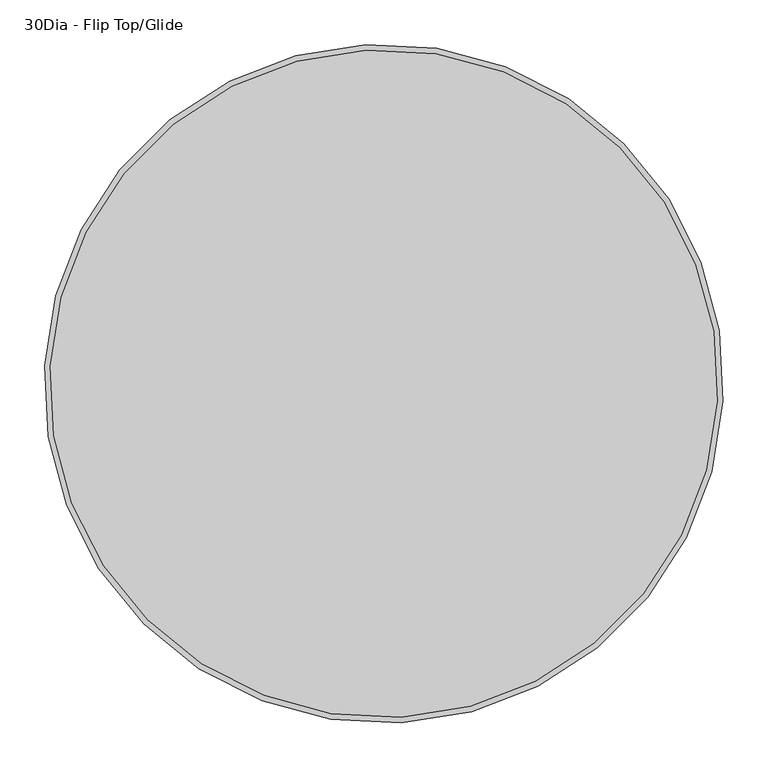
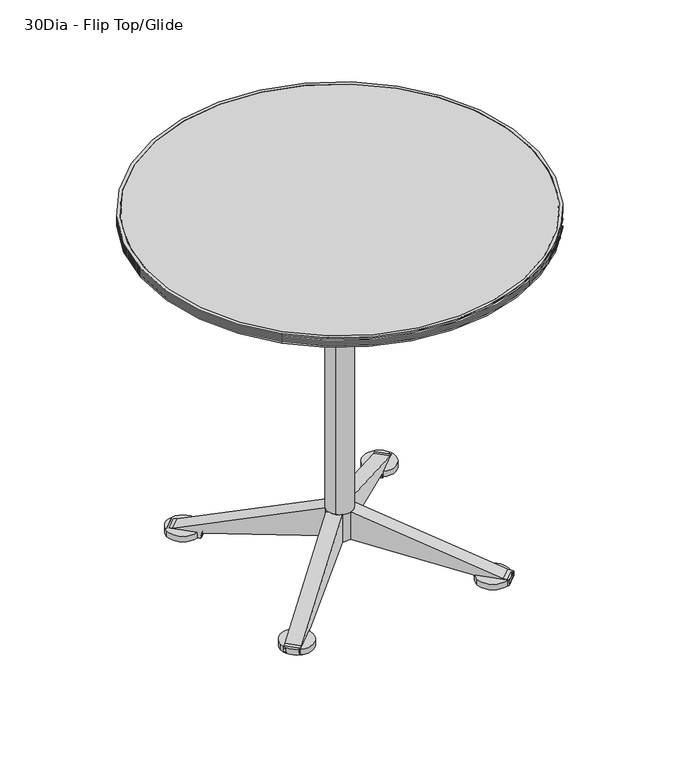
"""IFC4 building model written with IfcOpenShell, lengths in millimetres: furniture geometry, Coalesse_AM_Table_Conference_Ballet_Table_Round : 30Dia - Flip Top/Glide."""

from ifc_helpers import new_model, si_unit, point, frame, frame_2d, origin, origin_with_axes, origin_2d, place, context, project, spatial, polyline, circle_curve, trimmed, segment, composite_curve, outline, extrude, source, transform, mapped, element, save
from ifc_brep_helpers import plane_surface, cylinder_surface, revolved_surface, advanced_brep


def furniture_30dia_flip_top_glide_9120c742(model_context):
    return source(origin(), model_context, "Body", "SolidModel", [
        extrude(outline(composite_curve([segment(trimmed(circle_curve(frame_2d((-194.715793, 197.3207687)), 31.75), [point((-226.465793, 197.3207687))], [point((-162.965793, 197.3207687))], False, "CARTESIAN"), True, "CONTINUOUS"), segment(trimmed(circle_curve(frame_2d((-194.715793, 197.3207687)), 31.75), [point((-162.965793, 197.3207687))], [point((-226.465793, 197.3207687))], False, "CARTESIAN"), True, "CONTINUOUS")], self_intersect=False)), frame((0.0, 0.0, 4.2904479), z_axis=(0.0, 0.0, 1.0), x_axis=(1.0, 0.0, 0.0)), (0.0, 0.0, 1.0), 11.3833531),
        extrude(outline(composite_curve([segment(trimmed(circle_curve(frame_2d((191.7194605, 196.5270187)), 31.75), [point((159.9694605, 196.5270187))], [point((223.4694605, 196.5270187))], False, "CARTESIAN"), True, "CONTINUOUS"), segment(trimmed(circle_curve(frame_2d((191.7194605, 196.5270187)), 31.75), [point((223.4694605, 196.5270187))], [point((159.9694605, 196.5270187))], False, "CARTESIAN"), True, "CONTINUOUS")], self_intersect=False)), frame((0.0, 0.0, 4.2904479), z_axis=(0.0, 0.0, 1.0), x_axis=(1.0, 0.0, 0.0)), (0.0, 0.0, 1.0), 11.3833531),
        extrude(outline(composite_curve([segment(trimmed(circle_curve(frame_2d((-194.715793, -191.2787692)), 31.75), [point((-226.465793, -191.2787692))], [point((-162.965793, -191.2787692))], False, "CARTESIAN"), True, "CONTINUOUS"), segment(trimmed(circle_curve(frame_2d((-194.715793, -191.2787692)), 31.75), [point((-162.965793, -191.2787692))], [point((-226.465793, -191.2787692))], False, "CARTESIAN"), True, "CONTINUOUS")], self_intersect=False)), frame((0.0, 0.0, 4.2904479), z_axis=(0.0, 0.0, 1.0), x_axis=(1.0, 0.0, 0.0)), (0.0, 0.0, 1.0), 11.3833531),
        extrude(outline(composite_curve([segment(trimmed(circle_curve(frame_2d((191.7194605, -190.4850192)), 31.75), [point((159.9694605, -190.4850192))], [point((223.4694605, -190.4850192))], False, "CARTESIAN"), True, "CONTINUOUS"), segment(trimmed(circle_curve(frame_2d((191.7194605, -190.4850192)), 31.75), [point((223.4694605, -190.4850192))], [point((159.9694605, -190.4850192))], False, "CARTESIAN"), True, "CONTINUOUS")], self_intersect=False)), frame((0.0, 0.0, 4.2904479), z_axis=(0.0, 0.0, 1.0), x_axis=(1.0, 0.0, 0.0)), (0.0, 0.0, 1.0), 11.3833531),
        extrude(outline(composite_curve([segment(polyline([(-57.749273, 0.0), (0.0, 0.0), (-90.9931074, -269.8641919), (-92.3030079, -279.1846177)]), True, "CONTINUOUS"), segment(trimmed(circle_curve(frame_2d((-93.9206951, -278.9572666)), 1.6335852), [point((-92.3030079, -279.1846177))], [point((-93.8206014, -280.5877823))], False, "CARTESIAN"), True, "CONTINUOUS"), segment(trimmed(circle_curve(frame_2d((-95.8523928, -247.4901147)), 33.1599725), [point((-93.8206014, -280.5877823))], [point((-101.682402, -280.1335639))], False, "CARTESIAN"), True, "CONTINUOUS"), segment(trimmed(circle_curve(frame_2d((-101.2796868, -277.8786768)), 2.2905666), [point((-101.682402, -280.1335639))], [point((-103.5674671, -277.7657306))], False, "CARTESIAN"), True, "CONTINUOUS"), segment(polyline([(-103.5674671, -277.7657306), (-103.5674671, -222.4322812)]), True, "CONTINUOUS"), segment(trimmed(circle_curve(frame_2d((-100.6154331, -221.9840334)), 2.9858719), [point((-103.5674671, -222.4322812))], [point((-100.2998684, -219.0148838))], False, "CARTESIAN"), True, "CONTINUOUS"), segment(trimmed(circle_curve(frame_2d((-98.3053249, -200.2482144)), 18.872363), [point((-100.2998684, -219.0148838))], [point((-94.5016021, -218.7332835))], True, "CARTESIAN"), True, "CONTINUOUS"), segment(trimmed(circle_curve(frame_2d((-95.1495986, -215.5841949)), 3.2150673), [point((-94.5016021, -218.7332835))], [point((-91.9741141, -216.0871422))], True, "CARTESIAN"), True, "CONTINUOUS"), segment(polyline([(-91.9741141, -216.0871422), (-57.749273, 0.0)]), True, "CONTINUOUS")], self_intersect=False)), frame((-23.5273141, 7.7834997, 107.857915), z_axis=(0.7071067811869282, 0.707106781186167, 0.0), x_axis=(0.0, 0.0, 1.0)), (0.0, 0.0, 1.0), 29.2174476),
        extrude(outline(composite_curve([segment(polyline([(-57.749273, 44.2801775), (-91.9741141, 260.3673198)]), True, "CONTINUOUS"), segment(trimmed(circle_curve(frame_2d((-95.1495986, 259.8643724)), 3.2150673), [point((-91.9741141, 260.3673198))], [point((-94.5016021, 263.013461))], True, "CARTESIAN"), True, "CONTINUOUS"), segment(trimmed(circle_curve(frame_2d((-98.3053249, 244.5283919)), 18.872363), [point((-94.5016021, 263.013461))], [point((-100.2998684, 263.2950613))], True, "CARTESIAN"), True, "CONTINUOUS"), segment(trimmed(circle_curve(frame_2d((-100.6154331, 266.2642109)), 2.9858719), [point((-100.2998684, 263.2950613))], [point((-103.5674671, 266.7124587))], False, "CARTESIAN"), True, "CONTINUOUS"), segment(polyline([(-103.5674671, 266.7124587), (-103.5674671, 322.0459081)]), True, "CONTINUOUS"), segment(trimmed(circle_curve(frame_2d((-101.2796868, 322.1588543)), 2.2905666), [point((-103.5674671, 322.0459081))], [point((-101.682402, 324.4137415))], False, "CARTESIAN"), True, "CONTINUOUS"), segment(trimmed(circle_curve(frame_2d((-95.8523928, 291.7702923)), 33.1599725), [point((-101.682402, 324.4137415))], [point((-93.8206014, 324.8679598))], False, "CARTESIAN"), True, "CONTINUOUS"), segment(trimmed(circle_curve(frame_2d((-93.9206951, 323.2374442)), 1.6335852), [point((-93.8206014, 324.8679598))], [point((-92.3030079, 323.4647953))], False, "CARTESIAN"), True, "CONTINUOUS"), segment(polyline([(-92.3030079, 323.4647953), (-90.9931074, 314.1443694), (0.0, 44.2801775), (-57.749273, 44.2801775)]), True, "CONTINUOUS")], self_intersect=False)), frame((-23.5273141, 7.7834997, 107.857915), z_axis=(0.7071067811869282, 0.707106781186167, 0.0), x_axis=(0.0, 0.0, 1.0)), (0.0, 0.0, 1.0), 29.2174476),
        extrude(outline(composite_curve([segment(polyline([(-57.749273, 0.0), (0.0, 0.0), (-90.9931074, -269.8641919), (-92.3030079, -279.1846177)]), True, "CONTINUOUS"), segment(trimmed(circle_curve(frame_2d((-93.9206951, -278.9572666)), 1.6335852), [point((-92.3030079, -279.1846177))], [point((-93.8206014, -280.5877823))], False, "CARTESIAN"), True, "CONTINUOUS"), segment(trimmed(circle_curve(frame_2d((-95.8523928, -247.4901147)), 33.1599725), [point((-93.8206014, -280.5877823))], [point((-101.682402, -280.1335639))], False, "CARTESIAN"), True, "CONTINUOUS"), segment(trimmed(circle_curve(frame_2d((-101.2796868, -277.8786768)), 2.2905666), [point((-101.682402, -280.1335639))], [point((-103.5674671, -277.7657306))], False, "CARTESIAN"), True, "CONTINUOUS"), segment(polyline([(-103.5674671, -277.7657306), (-103.5674671, -222.4322812)]), True, "CONTINUOUS"), segment(trimmed(circle_curve(frame_2d((-100.6154331, -221.9840334)), 2.9858719), [point((-103.5674671, -222.4322812))], [point((-100.2998684, -219.0148838))], False, "CARTESIAN"), True, "CONTINUOUS"), segment(trimmed(circle_curve(frame_2d((-98.3053249, -200.2482144)), 18.872363), [point((-100.2998684, -219.0148838))], [point((-94.5016021, -218.7332835))], True, "CARTESIAN"), True, "CONTINUOUS"), segment(trimmed(circle_curve(frame_2d((-95.1495986, -215.5841949)), 3.2150673), [point((-94.5016021, -218.7332835))], [point((-91.9741141, -216.0871422))], True, "CARTESIAN"), True, "CONTINUOUS"), segment(polyline([(-91.9741141, -216.0871422), (-57.749273, 0.0)]), True, "CONTINUOUS")], self_intersect=False)), frame((-7.7834997, -23.5273141, 107.857915), z_axis=(-0.7071067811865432, 0.7071067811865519, 0.0), x_axis=(0.0, 0.0, 1.0)), (0.0, 0.0, 1.0), 29.2174476),
        extrude(outline(composite_curve([segment(polyline([(-57.749273, 44.2801775), (-91.9741141, 260.3673198)]), True, "CONTINUOUS"), segment(trimmed(circle_curve(frame_2d((-95.1495986, 259.8643724)), 3.2150673), [point((-91.9741141, 260.3673198))], [point((-94.5016021, 263.013461))], True, "CARTESIAN"), True, "CONTINUOUS"), segment(trimmed(circle_curve(frame_2d((-98.3053249, 244.5283919)), 18.872363), [point((-94.5016021, 263.013461))], [point((-100.2998684, 263.2950613))], True, "CARTESIAN"), True, "CONTINUOUS"), segment(trimmed(circle_curve(frame_2d((-100.6154331, 266.2642109)), 2.9858719), [point((-100.2998684, 263.2950613))], [point((-103.5674671, 266.7124587))], False, "CARTESIAN"), True, "CONTINUOUS"), segment(polyline([(-103.5674671, 266.7124587), (-103.5674671, 322.0459081)]), True, "CONTINUOUS"), segment(trimmed(circle_curve(frame_2d((-101.2796868, 322.1588543)), 2.2905666), [point((-103.5674671, 322.0459081))], [point((-101.682402, 324.4137415))], False, "CARTESIAN"), True, "CONTINUOUS"), segment(trimmed(circle_curve(frame_2d((-95.8523928, 291.7702923)), 33.1599725), [point((-101.682402, 324.4137415))], [point((-93.8206014, 324.8679598))], False, "CARTESIAN"), True, "CONTINUOUS"), segment(trimmed(circle_curve(frame_2d((-93.9206951, 323.2374442)), 1.6335852), [point((-93.8206014, 324.8679598))], [point((-92.3030079, 323.4647953))], False, "CARTESIAN"), True, "CONTINUOUS"), segment(polyline([(-92.3030079, 323.4647953), (-90.9931074, 314.1443694), (0.0, 44.2801775), (-57.749273, 44.2801775)]), True, "CONTINUOUS")], self_intersect=False)), frame((-7.7834997, -23.5273141, 107.857915), z_axis=(-0.7071067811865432, 0.7071067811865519, 0.0), x_axis=(0.0, 0.0, 1.0)), (0.0, 0.0, 1.0), 29.2174476),
        extrude(outline(composite_curve([segment(polyline([(-57.749273, 0.0), (0.0, 0.0), (-90.9931074, -269.8641919), (-92.3030079, -279.1846177)]), True, "CONTINUOUS"), segment(trimmed(circle_curve(frame_2d((-93.9206951, -278.9572666)), 1.6335852), [point((-92.3030079, -279.1846177))], [point((-93.8206014, -280.5877823))], False, "CARTESIAN"), True, "CONTINUOUS"), segment(trimmed(circle_curve(frame_2d((-95.8523928, -247.4901147)), 33.1599725), [point((-93.8206014, -280.5877823))], [point((-101.682402, -280.1335639))], False, "CARTESIAN"), True, "CONTINUOUS"), segment(trimmed(circle_curve(frame_2d((-101.2796868, -277.8786768)), 2.2905666), [point((-101.682402, -280.1335639))], [point((-103.5674671, -277.7657306))], False, "CARTESIAN"), True, "CONTINUOUS"), segment(polyline([(-103.5674671, -277.7657306), (-103.5674671, -222.4322812)]), True, "CONTINUOUS"), segment(trimmed(circle_curve(frame_2d((-100.6154331, -221.9840334)), 2.9858719), [point((-103.5674671, -222.4322812))], [point((-100.2998684, -219.0148838))], False, "CARTESIAN"), True, "CONTINUOUS"), segment(trimmed(circle_curve(frame_2d((-98.3053249, -200.2482144)), 18.872363), [point((-100.2998684, -219.0148838))], [point((-94.5016021, -218.7332835))], True, "CARTESIAN"), True, "CONTINUOUS"), segment(trimmed(circle_curve(frame_2d((-95.1495986, -215.5841949)), 3.2150673), [point((-94.5016021, -218.7332835))], [point((-91.9741141, -216.0871422))], True, "CARTESIAN"), True, "CONTINUOUS"), segment(polyline([(-91.9741141, -216.0871422), (-57.749273, 0.0)]), True, "CONTINUOUS")], self_intersect=False)), frame((-23.5273141, 7.7834997, 107.857915), z_axis=(0.7071067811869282, 0.707106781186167, 0.0), x_axis=(0.0, 0.0, 1.0)), (0.0, 0.0, 1.0), 29.2174476),
        extrude(outline(composite_curve([segment(polyline([(-57.749273, 44.2801775), (-91.9741141, 260.3673198)]), True, "CONTINUOUS"), segment(trimmed(circle_curve(frame_2d((-95.1495986, 259.8643724)), 3.2150673), [point((-91.9741141, 260.3673198))], [point((-94.5016021, 263.013461))], True, "CARTESIAN"), True, "CONTINUOUS"), segment(trimmed(circle_curve(frame_2d((-98.3053249, 244.5283919)), 18.872363), [point((-94.5016021, 263.013461))], [point((-100.2998684, 263.2950613))], True, "CARTESIAN"), True, "CONTINUOUS"), segment(trimmed(circle_curve(frame_2d((-100.6154331, 266.2642109)), 2.9858719), [point((-100.2998684, 263.2950613))], [point((-103.5674671, 266.7124587))], False, "CARTESIAN"), True, "CONTINUOUS"), segment(polyline([(-103.5674671, 266.7124587), (-103.5674671, 322.0459081)]), True, "CONTINUOUS"), segment(trimmed(circle_curve(frame_2d((-101.2796868, 322.1588543)), 2.2905666), [point((-103.5674671, 322.0459081))], [point((-101.682402, 324.4137415))], False, "CARTESIAN"), True, "CONTINUOUS"), segment(trimmed(circle_curve(frame_2d((-95.8523928, 291.7702923)), 33.1599725), [point((-101.682402, 324.4137415))], [point((-93.8206014, 324.8679598))], False, "CARTESIAN"), True, "CONTINUOUS"), segment(trimmed(circle_curve(frame_2d((-93.9206951, 323.2374442)), 1.6335852), [point((-93.8206014, 324.8679598))], [point((-92.3030079, 323.4647953))], False, "CARTESIAN"), True, "CONTINUOUS"), segment(polyline([(-92.3030079, 323.4647953), (-90.9931074, 314.1443694), (0.0, 44.2801775), (-57.749273, 44.2801775)]), True, "CONTINUOUS")], self_intersect=False)), frame((-23.5273141, 7.7834997, 107.857915), z_axis=(0.7071067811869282, 0.707106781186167, 0.0), x_axis=(0.0, 0.0, 1.0)), (0.0, 0.0, 1.0), 29.2174476),
        extrude(outline(composite_curve([segment(polyline([(-57.749273, 0.0), (0.0, 0.0), (-90.9931074, -269.8641919), (-92.3030079, -279.1846177)]), True, "CONTINUOUS"), segment(trimmed(circle_curve(frame_2d((-93.9206951, -278.9572666)), 1.6335852), [point((-92.3030079, -279.1846177))], [point((-93.8206014, -280.5877823))], False, "CARTESIAN"), True, "CONTINUOUS"), segment(trimmed(circle_curve(frame_2d((-95.8523928, -247.4901147)), 33.1599725), [point((-93.8206014, -280.5877823))], [point((-101.682402, -280.1335639))], False, "CARTESIAN"), True, "CONTINUOUS"), segment(trimmed(circle_curve(frame_2d((-101.2796868, -277.8786768)), 2.2905666), [point((-101.682402, -280.1335639))], [point((-103.5674671, -277.7657306))], False, "CARTESIAN"), True, "CONTINUOUS"), segment(polyline([(-103.5674671, -277.7657306), (-103.5674671, -222.4322812)]), True, "CONTINUOUS"), segment(trimmed(circle_curve(frame_2d((-100.6154331, -221.9840334)), 2.9858719), [point((-103.5674671, -222.4322812))], [point((-100.2998684, -219.0148838))], False, "CARTESIAN"), True, "CONTINUOUS"), segment(trimmed(circle_curve(frame_2d((-98.3053249, -200.2482144)), 18.872363), [point((-100.2998684, -219.0148838))], [point((-94.5016021, -218.7332835))], True, "CARTESIAN"), True, "CONTINUOUS"), segment(trimmed(circle_curve(frame_2d((-95.1495986, -215.5841949)), 3.2150673), [point((-94.5016021, -218.7332835))], [point((-91.9741141, -216.0871422))], True, "CARTESIAN"), True, "CONTINUOUS"), segment(polyline([(-91.9741141, -216.0871422), (-57.749273, 0.0)]), True, "CONTINUOUS")], self_intersect=False)), frame((-7.7834997, -23.5273141, 107.857915), z_axis=(-0.7071067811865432, 0.7071067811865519, 0.0), x_axis=(0.0, 0.0, 1.0)), (0.0, 0.0, 1.0), 29.2174476),
        extrude(outline(composite_curve([segment(polyline([(-57.749273, 44.2801775), (-91.9741141, 260.3673198)]), True, "CONTINUOUS"), segment(trimmed(circle_curve(frame_2d((-95.1495986, 259.8643724)), 3.2150673), [point((-91.9741141, 260.3673198))], [point((-94.5016021, 263.013461))], True, "CARTESIAN"), True, "CONTINUOUS"), segment(trimmed(circle_curve(frame_2d((-98.3053249, 244.5283919)), 18.872363), [point((-94.5016021, 263.013461))], [point((-100.2998684, 263.2950613))], True, "CARTESIAN"), True, "CONTINUOUS"), segment(trimmed(circle_curve(frame_2d((-100.6154331, 266.2642109)), 2.9858719), [point((-100.2998684, 263.2950613))], [point((-103.5674671, 266.7124587))], False, "CARTESIAN"), True, "CONTINUOUS"), segment(polyline([(-103.5674671, 266.7124587), (-103.5674671, 322.0459081)]), True, "CONTINUOUS"), segment(trimmed(circle_curve(frame_2d((-101.2796868, 322.1588543)), 2.2905666), [point((-103.5674671, 322.0459081))], [point((-101.682402, 324.4137415))], False, "CARTESIAN"), True, "CONTINUOUS"), segment(trimmed(circle_curve(frame_2d((-95.8523928, 291.7702923)), 33.1599725), [point((-101.682402, 324.4137415))], [point((-93.8206014, 324.8679598))], False, "CARTESIAN"), True, "CONTINUOUS"), segment(trimmed(circle_curve(frame_2d((-93.9206951, 323.2374442)), 1.6335852), [point((-93.8206014, 324.8679598))], [point((-92.3030079, 323.4647953))], False, "CARTESIAN"), True, "CONTINUOUS"), segment(polyline([(-92.3030079, 323.4647953), (-90.9931074, 314.1443694), (0.0, 44.2801775), (-57.749273, 44.2801775)]), True, "CONTINUOUS")], self_intersect=False)), frame((-7.7834997, -23.5273141, 107.857915), z_axis=(-0.7071067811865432, 0.7071067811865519, 0.0), x_axis=(0.0, 0.0, 1.0)), (0.0, 0.0, 1.0), 29.2174476),
        extrude(outline(composite_curve([segment(trimmed(circle_curve(frame_2d((1.04e-05, -1.04e-05)), 25.3999999), [point((-17.9605018, -17.9605225))], [point((17.9605225, 17.9605018))], False, "CARTESIAN"), True, "CONTINUOUS"), segment(trimmed(circle_curve(frame_2d((1.04e-05, -1.04e-05)), 25.3999999), [point((17.9605225, 17.9605018))], [point((-17.9605018, -17.9605225))], False, "CARTESIAN"), True, "CONTINUOUS")], self_intersect=False)), frame((0.0, 0.0, 607.6784119), z_axis=(0.0, 0.0, 1.0), x_axis=(1.0, 0.0, 0.0)), (0.0, 0.0, 1.0), 50.3081696),
        extrude(outline(polyline([(158.4621346, 17.0356733), (169.8930132, 8.1048922), (169.8930132, 0.8331186), (159.98106, -9.0788345), (38.5409959, -9.0788345), (28.462086, 1.0000754), (28.462086, 7.6856478), (37.8121114, 17.0356733), (158.4621346, 17.0356733)])), frame((0.0, 0.0, 687.2912849), z_axis=(0.0, 0.0, 1.0), x_axis=(1.0, 0.0, 0.0)), (0.0, 0.0, 1.0), 6.5168503),
        extrude(outline(composite_curve([segment(trimmed(circle_curve(frame_2d((669.1002966, -84.2761543)), 7.8975043), [point((669.1002966, -92.1736586))], [point((669.1002966, -76.3786501))], False, "CARTESIAN"), True, "CONTINUOUS"), segment(trimmed(circle_curve(frame_2d((669.1002966, -84.2761543)), 7.8975043), [point((669.1002966, -76.3786501))], [point((669.1002966, -92.1736586))], False, "CARTESIAN"), True, "CONTINUOUS")], self_intersect=False)), frame((0.0, -102.0227757, 0.0), z_axis=(0.0, 1.0, 0.0), x_axis=(0.0, 0.0, 1.0)), (0.0, 0.0, 1.0), 207.3263413),
        extrude(outline(polyline([(77.1619615, -102.0227757), (72.7168839, -102.0227757), (72.7168839, 105.3035655), (77.1619615, 105.3035655), (77.1619615, -102.0227757)])), frame((0.0, 0.0, 657.9865814), z_axis=(0.0, 0.0, 1.0), x_axis=(1.0, 0.0, 0.0)), (0.0, 0.0, 1.0), 25.6753708),
        extrude(outline(polyline([(105.3035655, 652.7037643), (101.8153095, 652.7037643), (101.8153095, 700.0114872), (-94.3997971, 700.0114872), (-94.3997971, 652.7037643), (-97.8879563, 652.7037643), (-97.8879563, 704.85), (105.3035655, 704.85), (105.3035655, 652.7037643)])), frame((-111.7977681, 0.0, 0.0), z_axis=(1.0, 0.0, 0.0), x_axis=(0.0, 1.0, 0.0)), (0.0, 0.0, 1.0), 220.3746008),
        extrude(outline(polyline([(-91.8596905, 688.7419716), (99.2752998, 688.7419716), (99.2752998, 652.7037643), (94.1954742, 652.7037643), (94.1954742, 683.6619522), (-86.7795016, 683.6619522), (-86.7795016, 652.7037643), (-91.8596905, 652.7037643), (-91.8596905, 688.7419716)])), frame((-111.7977681, 0.0, 0.0), z_axis=(1.0, 0.0, 0.0), x_axis=(0.0, 1.0, 0.0)), (0.0, 0.0, 1.0), 220.3746008),
        extrude(outline(composite_curve([segment(trimmed(circle_curve(frame_2d((1.04e-05, -1.04e-05)), 25.3999999), [point((-17.9605018, -17.9605225))], [point((17.9605225, 17.9605018))], False, "CARTESIAN"), True, "CONTINUOUS"), segment(trimmed(circle_curve(frame_2d((1.04e-05, -1.04e-05)), 25.3999999), [point((17.9605225, 17.9605018))], [point((-17.9605018, -17.9605225))], False, "CARTESIAN"), True, "CONTINUOUS")], self_intersect=False)), frame((0.0, 0.0, 107.857915), z_axis=(0.0, 0.0, 1.0), x_axis=(1.0, 0.0, 0.0)), (0.0, 0.0, 1.0), 499.8204968),
        advanced_brep(
        [(-264.9175556, -264.9175556, 723.9), (264.9175556, 264.9175556, 723.9), (264.9175556, 264.9175556, 704.85), (-264.9175556, -264.9175556, 704.85), (-269.4087111, -269.4087111, 720.7255014), (269.4087111, 269.4087111, 720.7255014), (269.4087111, 269.4087111, 723.9), (-269.4087111, -269.4087111, 723.9), (-267.1626849, -267.1626849, 719.1372226), (267.1626849, 267.1626849, 719.1372226), (-269.4072913, -269.4072913, 717.5499574), (269.4072913, 269.4072913, 717.5499574), (-267.16794, -267.16794, 715.9572867), (267.16794, 267.16794, 715.9572867), (-269.4068502, -269.4068502, 714.3753433), (269.4068502, 269.4068502, 714.3753433), (-267.1676382, -267.1676382, 712.7853908), (267.1676382, 267.1676382, 712.7853908), (-269.4078728, -269.4078728, 711.2011743), (269.4078728, 269.4078728, 711.2011743), (-267.1671863, -267.1671863, 709.6095518), (267.1671863, 267.1671863, 709.6095518), (-269.4076836, -269.4076836, 708.0238127), (269.4076836, 269.4076836, 708.0238127), (-269.4076836, -269.4076836, 704.85), (269.4076836, 269.4076836, 704.85)],
        [
            (0, 1, circle_curve(frame((0.0, 0.0, 723.9), z_axis=(0.0, 0.0, 1.0), x_axis=(0.7071067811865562, 0.7071067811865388, 0.0)), 374.65)),
            (1, 2),
            (2, 3, circle_curve(frame((0.0, 0.0, 704.85), z_axis=(0.0, 0.0, -1.0), x_axis=(0.7071067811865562, 0.7071067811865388, 0.0)), 374.65)),
            (3, 0),
            (4, 5, circle_curve(frame((0.0, 0.0, 720.7255014), z_axis=(0.0, 0.0, 1.0), x_axis=(0.7071067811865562, 0.7071067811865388, 0.0)), 381.0014531)),
            (5, 6),
            (6, 7, circle_curve(frame((0.0, 0.0, 723.9), z_axis=(0.0, 0.0, -1.0), x_axis=(0.7071067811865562, 0.7071067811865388, 0.0)), 381.0014531)),
            (7, 4),
            (8, 9, circle_curve(frame((0.0, 0.0, 719.1372226), z_axis=(0.0, 0.0, 1.0), x_axis=(0.7071067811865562, 0.7071067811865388, 0.0)), 377.8250923)),
            (9, 5),
            (4, 8),
            (10, 11, circle_curve(frame((0.0, 0.0, 717.5499574), z_axis=(0.0, 0.0, 1.0), x_axis=(0.7071067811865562, 0.7071067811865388, 0.0)), 380.9994452)),
            (11, 9),
            (8, 10),
            (12, 13, circle_curve(frame((0.0, 0.0, 715.9572867), z_axis=(0.0, 0.0, 1.0), x_axis=(0.7071067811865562, 0.7071067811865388, 0.0)), 377.8325242)),
            (13, 11),
            (10, 12),
            (14, 15, circle_curve(frame((0.0, 0.0, 714.3753433), z_axis=(0.0, 0.0, 1.0), x_axis=(0.7071067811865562, 0.7071067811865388, 0.0)), 380.9988213)),
            (15, 13),
            (12, 14),
            (16, 17, circle_curve(frame((0.0, 0.0, 712.7853908), z_axis=(0.0, 0.0, 1.0), x_axis=(0.7071067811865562, 0.7071067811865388, 0.0)), 377.8320974)),
            (17, 15),
            (14, 16),
            (18, 19, circle_curve(frame((0.0, 0.0, 711.2011743), z_axis=(0.0, 0.0, 1.0), x_axis=(0.7071067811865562, 0.7071067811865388, 0.0)), 381.0002675)),
            (19, 17),
            (16, 18),
            (20, 21, circle_curve(frame((0.0, 0.0, 709.6095518), z_axis=(0.0, 0.0, 1.0), x_axis=(0.7071067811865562, 0.7071067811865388, 0.0)), 377.8314582)),
            (21, 19),
            (18, 20),
            (22, 23, circle_curve(frame((0.0, 0.0, 708.0238127), z_axis=(0.0, 0.0, 1.0), x_axis=(0.7071067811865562, 0.7071067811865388, 0.0)), 381.0)),
            (23, 21),
            (20, 22),
            (24, 25, circle_curve(frame((0.0, 0.0, 704.85), z_axis=(0.0, 0.0, 1.0), x_axis=(0.7071067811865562, 0.7071067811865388, 0.0)), 381.0)),
            (25, 23),
            (22, 24),
            (1, 0, circle_curve(frame((0.0, 0.0, 723.9), z_axis=(0.0, 0.0, 1.0), x_axis=(-0.7071067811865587, -0.7071067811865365, 0.0)), 374.65)),
            (3, 2, circle_curve(frame((0.0, 0.0, 704.85), z_axis=(0.0, 0.0, -1.0), x_axis=(-0.7071067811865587, -0.7071067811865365, 0.0)), 374.65)),
            (6, 7, circle_curve(frame((0.0, 0.0, 723.9), z_axis=(0.0, 0.0, 1.0), x_axis=(-0.7071067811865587, -0.7071067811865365, 0.0)), 381.0014531)),
            (5, 4, circle_curve(frame((0.0, 0.0, 720.7255014), z_axis=(0.0, 0.0, 1.0), x_axis=(-0.7071067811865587, -0.7071067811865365, 0.0)), 381.0014531)),
            (9, 8, circle_curve(frame((0.0, 0.0, 719.1372226), z_axis=(0.0, 0.0, 1.0), x_axis=(-0.7071067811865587, -0.7071067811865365, 0.0)), 377.8250923)),
            (11, 10, circle_curve(frame((0.0, 0.0, 717.5499574), z_axis=(0.0, 0.0, 1.0), x_axis=(-0.7071067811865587, -0.7071067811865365, 0.0)), 380.9994452)),
            (13, 12, circle_curve(frame((0.0, 0.0, 715.9572867), z_axis=(0.0, 0.0, 1.0), x_axis=(-0.7071067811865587, -0.7071067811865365, 0.0)), 377.8325242)),
            (15, 14, circle_curve(frame((0.0, 0.0, 714.3753433), z_axis=(0.0, 0.0, 1.0), x_axis=(-0.7071067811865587, -0.7071067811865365, 0.0)), 380.9988213)),
            (17, 16, circle_curve(frame((0.0, 0.0, 712.7853908), z_axis=(0.0, 0.0, 1.0), x_axis=(-0.7071067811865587, -0.7071067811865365, 0.0)), 377.8320974)),
            (19, 18, circle_curve(frame((0.0, 0.0, 711.2011743), z_axis=(0.0, 0.0, 1.0), x_axis=(-0.7071067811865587, -0.7071067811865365, 0.0)), 381.0002675)),
            (21, 20, circle_curve(frame((0.0, 0.0, 709.6095518), z_axis=(0.0, 0.0, 1.0), x_axis=(-0.7071067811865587, -0.7071067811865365, 0.0)), 377.8314582)),
            (23, 22, circle_curve(frame((0.0, 0.0, 708.0238127), z_axis=(0.0, 0.0, 1.0), x_axis=(-0.7071067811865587, -0.7071067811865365, 0.0)), 381.0)),
            (25, 24, circle_curve(frame((0.0, 0.0, 704.85), z_axis=(0.0, 0.0, 1.0), x_axis=(-0.7071067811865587, -0.7071067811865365, 0.0)), 381.0)),
        ],
        [
            revolved_surface(polyline([(264.9175555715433, 264.91755557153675, 704.85), (264.9175555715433, 264.91755557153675, 723.9)]), (0.0, 0.0, 723.9), (0.0, 0.0, -1.0)),
            cylinder_surface(frame((0.0, 0.0, 723.9), z_axis=(0.0, 0.0, -1.0), x_axis=(0.7071067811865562, 0.7071067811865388, 0.0)), 381.0014531),
            revolved_surface(polyline([(269.4087111, 269.4087111, 720.7255014), (267.1626849, 267.1626849, 719.1372226)]), (0.0, 0.0, 723.9), (0.0, 0.0, -1.0)),
            revolved_surface(polyline([(267.1626849, 267.1626849, 719.1372226), (269.4072913, 269.4072913, 717.5499574)]), (0.0, 0.0, 723.9), (0.0, 0.0, -1.0)),
            revolved_surface(polyline([(269.4072913, 269.4072913, 717.5499574), (267.16794, 267.16794, 715.9572867)]), (0.0, 0.0, 723.9), (0.0, 0.0, -1.0)),
            revolved_surface(polyline([(267.16794, 267.16794, 715.9572867), (269.4068502, 269.4068502, 714.3753433)]), (0.0, 0.0, 723.9), (0.0, 0.0, -1.0)),
            revolved_surface(polyline([(269.4068502, 269.4068502, 714.3753433), (267.1676382, 267.1676382, 712.7853908)]), (0.0, 0.0, 723.9), (0.0, 0.0, -1.0)),
            revolved_surface(polyline([(267.1676382, 267.1676382, 712.7853908), (269.4078728, 269.4078728, 711.2011743)]), (0.0, 0.0, 723.9), (0.0, 0.0, -1.0)),
            revolved_surface(polyline([(269.4078728, 269.4078728, 711.2011743), (267.1671863, 267.1671863, 709.6095518)]), (0.0, 0.0, 723.9), (0.0, 0.0, -1.0)),
            revolved_surface(polyline([(267.1671863, 267.1671863, 709.6095518), (269.4076836, 269.4076836, 708.0238127)]), (0.0, 0.0, 723.9), (0.0, 0.0, -1.0)),
            cylinder_surface(frame((0.0, 0.0, 723.9), z_axis=(0.0, 0.0, -1.0), x_axis=(0.7071067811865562, 0.7071067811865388, 0.0)), 381.0),
            revolved_surface(polyline([(-264.9175555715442, -264.9175555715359, 704.85), (-264.9175555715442, -264.9175555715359, 723.9)]), (0.0, 0.0, 723.9), (0.0, 0.0, -1.0)),
            plane_surface(frame((0.0, 0.0, 723.9), z_axis=(0.0, 0.0, 1.0), x_axis=(-0.7071067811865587, -0.7071067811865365, 0.0))),
            cylinder_surface(frame((0.0, 0.0, 723.9), z_axis=(0.0, 0.0, -1.0), x_axis=(-0.7071067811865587, -0.7071067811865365, 0.0)), 381.0014531),
            revolved_surface(polyline([(-269.4087111, -269.4087111, 720.7255014), (-267.1626849, -267.1626849, 719.1372226)]), (0.0, 0.0, 723.9), (0.0, 0.0, -1.0)),
            revolved_surface(polyline([(-267.1626849, -267.1626849, 719.1372226), (-269.4072913, -269.4072913, 717.5499574)]), (0.0, 0.0, 723.9), (0.0, 0.0, -1.0)),
            revolved_surface(polyline([(-269.4072913, -269.4072913, 717.5499574), (-267.16794, -267.16794, 715.9572867)]), (0.0, 0.0, 723.9), (0.0, 0.0, -1.0)),
            revolved_surface(polyline([(-267.16794, -267.16794, 715.9572867), (-269.4068502, -269.4068502, 714.3753433)]), (0.0, 0.0, 723.9), (0.0, 0.0, -1.0)),
            revolved_surface(polyline([(-269.4068502, -269.4068502, 714.3753433), (-267.1676382, -267.1676382, 712.7853908)]), (0.0, 0.0, 723.9), (0.0, 0.0, -1.0)),
            revolved_surface(polyline([(-267.1676382, -267.1676382, 712.7853908), (-269.4078728, -269.4078728, 711.2011743)]), (0.0, 0.0, 723.9), (0.0, 0.0, -1.0)),
            revolved_surface(polyline([(-269.4078728, -269.4078728, 711.2011743), (-267.1671863, -267.1671863, 709.6095518)]), (0.0, 0.0, 723.9), (0.0, 0.0, -1.0)),
            revolved_surface(polyline([(-267.1671863, -267.1671863, 709.6095518), (-269.4076836, -269.4076836, 708.0238127)]), (0.0, 0.0, 723.9), (0.0, 0.0, -1.0)),
            cylinder_surface(frame((0.0, 0.0, 723.9), z_axis=(0.0, 0.0, -1.0), x_axis=(-0.7071067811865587, -0.7071067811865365, 0.0)), 381.0),
            plane_surface(frame((0.0, 0.0, 704.85), z_axis=(0.0, 0.0, -1.0), x_axis=(-0.7071067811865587, -0.7071067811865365, 0.0))),
        ],
        [
            (0, [[1, 2, 3, 4]]),
            (1, [[5, 6, 7, 8]]),
            (2, [[9, 10, -5, 11]]),
            (3, [[12, 13, -9, 14]]),
            (4, [[15, 16, -12, 17]]),
            (5, [[18, 19, -15, 20]]),
            (6, [[21, 22, -18, 23]]),
            (7, [[24, 25, -21, 26]]),
            (8, [[27, 28, -24, 29]]),
            (9, [[30, 31, -27, 32]]),
            (10, [[33, 34, -30, 35]]),
            (11, [[36, -4, 37, -2]]),
            (12, [[38, -7], [-36, -1]]),
            (13, [[39, -8, -38, -6]]),
            (14, [[40, -11, -39, -10]]),
            (15, [[41, -14, -40, -13]]),
            (16, [[42, -17, -41, -16]]),
            (17, [[43, -20, -42, -19]]),
            (18, [[44, -23, -43, -22]]),
            (19, [[45, -26, -44, -25]]),
            (20, [[46, -29, -45, -28]]),
            (21, [[47, -32, -46, -31]]),
            (22, [[48, -35, -47, -34]]),
            (23, [[-48, -33], [-37, -3]]),
        ],
    ),
        extrude(outline(composite_curve([segment(trimmed(circle_curve(frame_2d((192.2336051, -190.6461051)), 25.4), [point((174.2730929, -208.6066174))], [point((210.1941174, -172.6855929))], False, "CARTESIAN"), True, "CONTINUOUS"), segment(trimmed(circle_curve(frame_2d((192.2336051, -190.6461051)), 25.4), [point((210.1941174, -172.6855929))], [point((174.2730929, -208.6066174))], False, "CARTESIAN"), True, "CONTINUOUS")], self_intersect=False)), origin_with_axes(), (0.0, 0.0, 1.0), 4.2904479),
        extrude(outline(composite_curve([segment(trimmed(circle_curve(frame_2d((192.2336051, 196.9961051)), 25.4), [point((174.2730929, 179.0355929))], [point((210.1941174, 214.9566174))], False, "CARTESIAN"), True, "CONTINUOUS"), segment(trimmed(circle_curve(frame_2d((192.2336051, 196.9961051)), 25.4), [point((210.1941174, 214.9566174))], [point((174.2730929, 179.0355929))], False, "CARTESIAN"), True, "CONTINUOUS")], self_intersect=False)), origin_with_axes(), (0.0, 0.0, 1.0), 4.2904479),
        extrude(outline(composite_curve([segment(trimmed(circle_curve(frame_2d((-194.6148551, -191.4398551)), 25.4), [point((-212.5753674, -209.4003674))], [point((-176.6543429, -173.4793429))], False, "CARTESIAN"), True, "CONTINUOUS"), segment(trimmed(circle_curve(frame_2d((-194.6148551, -191.4398551)), 25.4), [point((-176.6543429, -173.4793429))], [point((-212.5753674, -209.4003674))], False, "CARTESIAN"), True, "CONTINUOUS")], self_intersect=False)), origin_with_axes(), (0.0, 0.0, 1.0), 4.2904479),
        extrude(outline(composite_curve([segment(trimmed(circle_curve(frame_2d((-194.2179801, 197.3929801)), 25.4), [point((-212.1784924, 179.4324679))], [point((-176.2574679, 215.3534924))], False, "CARTESIAN"), True, "CONTINUOUS"), segment(trimmed(circle_curve(frame_2d((-194.2179801, 197.3929801)), 25.4), [point((-176.2574679, 215.3534924))], [point((-212.1784924, 179.4324679))], False, "CARTESIAN"), True, "CONTINUOUS")], self_intersect=False)), origin_with_axes(), (0.0, 0.0, 1.0), 4.2904479),
        extrude(outline(composite_curve([segment(trimmed(circle_curve(frame_2d((1.04e-05, -1.04e-05)), 25.3999999), [point((-17.9605018, -17.9605225))], [point((17.9605225, 17.9605018))], False, "CARTESIAN"), True, "CONTINUOUS"), segment(trimmed(circle_curve(frame_2d((1.04e-05, -1.04e-05)), 25.3999999), [point((17.9605225, 17.9605018))], [point((-17.9605018, -17.9605225))], False, "CARTESIAN"), True, "CONTINUOUS")], self_intersect=False)), frame((0.0, 0.0, 50.8000015), z_axis=(0.0, 0.0, 1.0), x_axis=(1.0, 0.0, 0.0)), (0.0, 0.0, 1.0), 556.8784104),
        extrude(outline(composite_curve([segment(trimmed(circle_curve(origin_2d(), 374.65), [point((-264.9175556, -264.9175556))], [point((264.9175556, 264.9175556))], False, "CARTESIAN"), True, "CONTINUOUS"), segment(trimmed(circle_curve(origin_2d(), 374.65), [point((264.9175556, 264.9175556))], [point((-264.9175556, -264.9175556))], False, "CARTESIAN"), True, "CONTINUOUS")], self_intersect=False)), frame((0.0, 0.0, 704.85), z_axis=(0.0, 0.0, 1.0), x_axis=(1.0, 0.0, 0.0)), (0.0, 0.0, 1.0), 19.05),
    ])


if __name__ == "__main__":
    model = new_model("IFC4")
    model_context = context("Model", 3, world=origin())
    ifc_project = project(units=[si_unit("LENGTHUNIT", "METRE", prefix="MILLI")], contexts=[model_context])
    site = spatial("IfcSite", under=ifc_project)
    building = spatial("IfcBuilding", under=site)
    placement = place(None, origin())
    furniture_30dia_flip_top_glide_shape = furniture_30dia_flip_top_glide_9120c742(model_context)
    element("IfcFurniture", 1, ObjectType="Coalesse_AM_Table_Conference_Ballet_Table_Round : 30Dia - Flip Top/Glide", at=placement, inside=building, context=model_context, shape_type="MappedRepresentation", body=[
        mapped(furniture_30dia_flip_top_glide_shape, transform((0.0, 0.0, 0.0), x_axis=(1.0, 0.0, 0.0), y_axis=(0.0, 1.0, 0.0), z_axis=(0.0, 0.0, 1.0))),
    ])
    save(model, "model.ifc")
